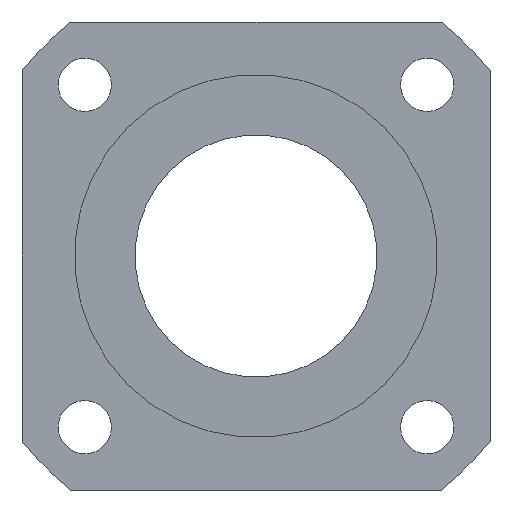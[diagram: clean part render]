
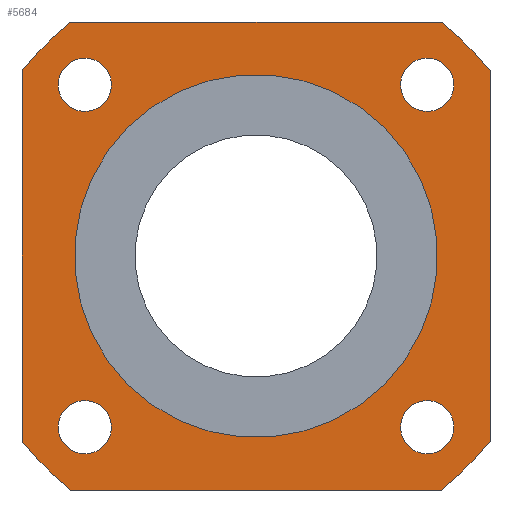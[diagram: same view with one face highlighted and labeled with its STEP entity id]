
A CAD part, left-side view. The second image highlights one B-rep face of the part: STEP entity #5684.
In plain terms, the highlighted planar face has unit normal (-1, 0, 0).
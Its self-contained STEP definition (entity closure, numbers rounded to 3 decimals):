
#108=CIRCLE('',#6031,37.);
#109=CIRCLE('',#6033,37.);
#110=CIRCLE('',#6035,37.);
#120=CIRCLE('',#6050,22.5);
#122=CIRCLE('',#6055,37.);
#123=CIRCLE('',#6056,3.3);
#124=CIRCLE('',#6057,3.3);
#125=CIRCLE('',#6058,3.3);
#126=CIRCLE('',#6059,3.3);
#534=ORIENTED_EDGE('',*,*,#2170,.T.);
#535=ORIENTED_EDGE('',*,*,#2153,.F.);
#536=ORIENTED_EDGE('',*,*,#2171,.T.);
#537=ORIENTED_EDGE('',*,*,#2156,.F.);
#538=ORIENTED_EDGE('',*,*,#2172,.T.);
#539=ORIENTED_EDGE('',*,*,#2173,.F.);
#540=ORIENTED_EDGE('',*,*,#2174,.T.);
#541=ORIENTED_EDGE('',*,*,#2151,.F.);
#542=ORIENTED_EDGE('',*,*,#2175,.T.);
#543=ORIENTED_EDGE('',*,*,#2176,.T.);
#544=ORIENTED_EDGE('',*,*,#2177,.T.);
#545=ORIENTED_EDGE('',*,*,#2178,.T.);
#546=ORIENTED_EDGE('',*,*,#2168,.T.);
#2151=EDGE_CURVE('',#2971,#2972,#108,.T.);
#2153=EDGE_CURVE('',#2973,#2974,#109,.T.);
#2156=EDGE_CURVE('',#2975,#2976,#110,.T.);
#2168=EDGE_CURVE('',#2986,#2986,#120,.T.);
#2170=EDGE_CURVE('',#2971,#2974,#3472,.T.);
#2171=EDGE_CURVE('',#2973,#2976,#3473,.T.);
#2172=EDGE_CURVE('',#2975,#2988,#3474,.T.);
#2173=EDGE_CURVE('',#2989,#2988,#122,.T.);
#2174=EDGE_CURVE('',#2989,#2972,#3475,.T.);
#2175=EDGE_CURVE('',#2990,#2990,#123,.T.);
#2176=EDGE_CURVE('',#2991,#2991,#124,.T.);
#2177=EDGE_CURVE('',#2992,#2992,#125,.T.);
#2178=EDGE_CURVE('',#2993,#2993,#126,.T.);
#2971=VERTEX_POINT('',#8992);
#2972=VERTEX_POINT('',#8994);
#2973=VERTEX_POINT('',#8998);
#2974=VERTEX_POINT('',#8999);
#2975=VERTEX_POINT('',#9004);
#2976=VERTEX_POINT('',#9005);
#2986=VERTEX_POINT('',#9032);
#2988=VERTEX_POINT('',#9041);
#2989=VERTEX_POINT('',#9043);
#2990=VERTEX_POINT('',#9046);
#2991=VERTEX_POINT('',#9048);
#2992=VERTEX_POINT('',#9050);
#2993=VERTEX_POINT('',#9052);
#3472=LINE('',#9038,#4139);
#3473=LINE('',#9039,#4140);
#3474=LINE('',#9040,#4141);
#3475=LINE('',#9044,#4142);
#4139=VECTOR('',#6599,1000.);
#4140=VECTOR('',#6600,1000.);
#4141=VECTOR('',#6601,1000.);
#4142=VECTOR('',#6604,1000.);
#4665=EDGE_LOOP('',(#534,#535,#536,#537,#538,#539,#540,#541));
#4666=EDGE_LOOP('',(#542));
#4667=EDGE_LOOP('',(#543));
#4668=EDGE_LOOP('',(#544));
#4669=EDGE_LOOP('',(#545));
#4670=EDGE_LOOP('',(#546));
#5072=FACE_BOUND('',#4665,.T.);
#5073=FACE_BOUND('',#4666,.T.);
#5074=FACE_BOUND('',#4667,.T.);
#5075=FACE_BOUND('',#4668,.T.);
#5076=FACE_BOUND('',#4669,.T.);
#5077=FACE_BOUND('',#4670,.T.);
#5424=PLANE('',#6054);
#5684=ADVANCED_FACE('',(#5072,#5073,#5074,#5075,#5076,#5077),#5424,.F.);
#6031=AXIS2_PLACEMENT_3D('',#8993,#6546,#6547);
#6033=AXIS2_PLACEMENT_3D('',#8997,#6551,#6552);
#6035=AXIS2_PLACEMENT_3D('',#9003,#6557,#6558);
#6050=AXIS2_PLACEMENT_3D('',#9031,#6589,#6590);
#6054=AXIS2_PLACEMENT_3D('',#9037,#6597,#6598);
#6055=AXIS2_PLACEMENT_3D('',#9042,#6602,#6603);
#6056=AXIS2_PLACEMENT_3D('',#9045,#6605,#6606);
#6057=AXIS2_PLACEMENT_3D('',#9047,#6607,#6608);
#6058=AXIS2_PLACEMENT_3D('',#9049,#6609,#6610);
#6059=AXIS2_PLACEMENT_3D('',#9051,#6611,#6612);
#6546=DIRECTION('',(1.,0.,0.));
#6547=DIRECTION('',(0.,0.707,-0.707));
#6551=DIRECTION('',(1.,0.,0.));
#6552=DIRECTION('',(0.,0.707,-0.707));
#6557=DIRECTION('',(1.,0.,0.));
#6558=DIRECTION('',(0.,0.707,-0.707));
#6589=DIRECTION('',(1.,0.,0.));
#6590=DIRECTION('',(0.,0.707,-0.707));
#6597=DIRECTION('',(1.,0.,0.));
#6598=DIRECTION('',(0.,0.707,-0.707));
#6599=DIRECTION('',(0.,1.,0.));
#6600=DIRECTION('',(0.,0.,-1.));
#6601=DIRECTION('',(0.,-1.,0.));
#6602=DIRECTION('',(1.,0.,0.));
#6603=DIRECTION('',(0.,0.707,-0.707));
#6604=DIRECTION('',(0.,0.,1.));
#6605=DIRECTION('',(1.,0.,0.));
#6606=DIRECTION('',(0.,0.707,-0.707));
#6607=DIRECTION('',(1.,0.,0.));
#6608=DIRECTION('',(0.,0.707,-0.707));
#6609=DIRECTION('',(1.,0.,0.));
#6610=DIRECTION('',(0.,0.707,-0.707));
#6611=DIRECTION('',(1.,0.,0.));
#6612=DIRECTION('',(0.,0.707,-0.707));
#8992=CARTESIAN_POINT('',(51.5,-22.978,29.));
#8993=CARTESIAN_POINT('',(51.5,0.,0.));
#8994=CARTESIAN_POINT('',(51.5,-29.,22.978));
#8997=CARTESIAN_POINT('',(51.5,0.,0.));
#8998=CARTESIAN_POINT('',(51.5,29.,22.978));
#8999=CARTESIAN_POINT('',(51.5,22.978,29.));
#9003=CARTESIAN_POINT('',(51.5,0.,0.));
#9004=CARTESIAN_POINT('',(51.5,22.978,-29.));
#9005=CARTESIAN_POINT('',(51.5,29.,-22.978));
#9031=CARTESIAN_POINT('',(51.5,0.,0.));
#9032=CARTESIAN_POINT('',(51.5,15.91,-15.91));
#9037=CARTESIAN_POINT('',(51.5,0.,0.));
#9038=CARTESIAN_POINT('',(51.5,29.,29.));
#9039=CARTESIAN_POINT('',(51.5,29.,-29.));
#9040=CARTESIAN_POINT('',(51.5,-29.,-29.));
#9041=CARTESIAN_POINT('',(51.5,-22.978,-29.));
#9042=CARTESIAN_POINT('',(51.5,0.,0.));
#9043=CARTESIAN_POINT('',(51.5,-29.,-22.978));
#9044=CARTESIAN_POINT('',(51.5,-29.,29.));
#9045=CARTESIAN_POINT('',(51.5,21.213,-21.213));
#9046=CARTESIAN_POINT('',(51.5,23.547,-23.547));
#9047=CARTESIAN_POINT('',(51.5,-21.213,-21.213));
#9048=CARTESIAN_POINT('',(51.5,-18.88,-23.547));
#9049=CARTESIAN_POINT('',(51.5,-21.213,21.213));
#9050=CARTESIAN_POINT('',(51.5,-18.88,18.88));
#9051=CARTESIAN_POINT('',(51.5,21.213,21.213));
#9052=CARTESIAN_POINT('',(51.5,23.547,18.88));
